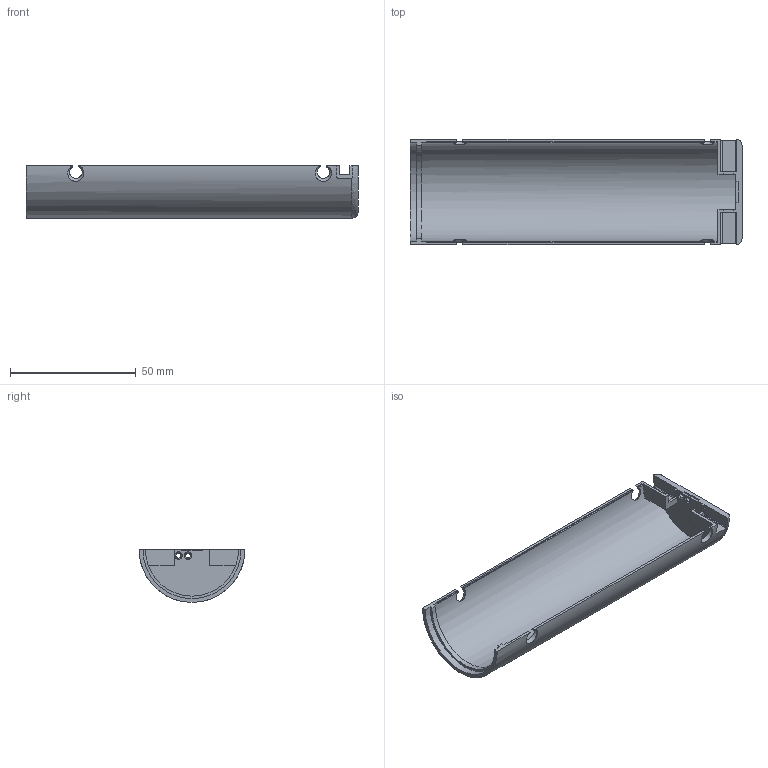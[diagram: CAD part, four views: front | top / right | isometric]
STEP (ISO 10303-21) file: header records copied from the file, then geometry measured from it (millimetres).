
FILE_DESCRIPTION(('Open CASCADE Model'),'2;1');
FILE_NAME('Open CASCADE Shape Model','2026-11-11T07:14:59',('Author'),( 'Open CASCADE'),'Open CASCADE STEP processor 8.0','build123d', 'Unknown');
FILE_SCHEMA(('AUTOMOTIVE_DESIGN { 1 0 10303 214 1 1 1 1 }'));
Length unit declared in the file: millimetre
Products named in the file (1): COMPOUND
Bounding box: 132 x 42 x 21 mm (x, y, z)
Volume: 14137.6 mm3; surface area: 18991 mm2
Topology: 1 solids, 1 shells, 75 faces, 217 edges, 144 vertices
Faces by surface type: plane 46, cylinder 20, cone 8, torus 1
Full cylindrical faces by diameter (mm): 2 x2
Entity records: 11132 total; most frequent: CARTESIAN_POINT 7301, DIRECTION 563, ORIENTED_EDGE 434, PCURVE 434, DEFINITIONAL_REPRESENTATION 434, B_SPLINE_CURVE_WITH_KNOTS 282, LINE 266, VECTOR 266
